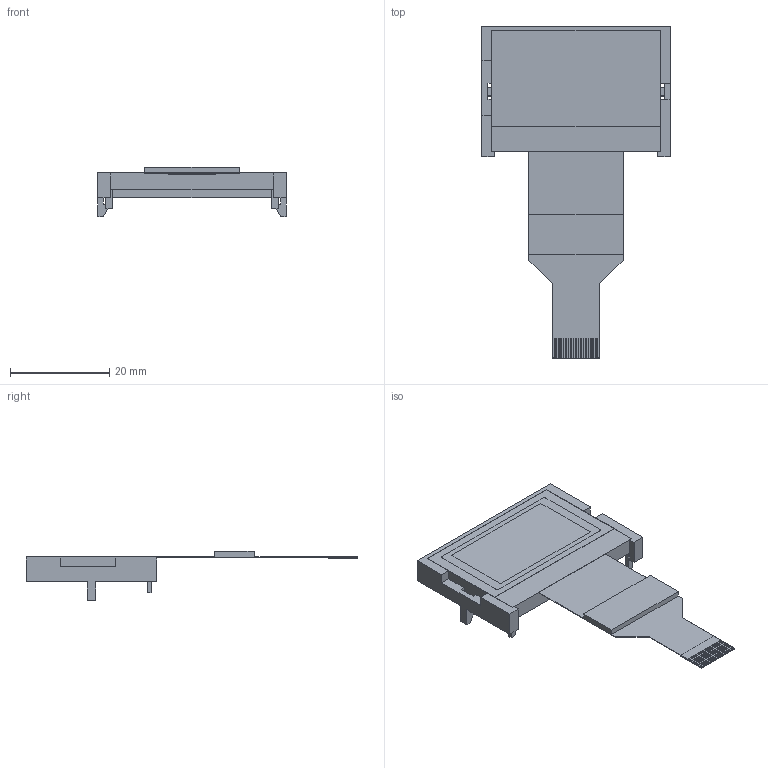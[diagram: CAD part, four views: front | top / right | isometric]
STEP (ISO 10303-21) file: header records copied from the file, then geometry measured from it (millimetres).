
FILE_DESCRIPTION (( 'STEP AP214' ), '1' );
FILE_NAME ('CFAG12864T3.STEP', '2019-11-25T21:50:08', ( '' ), ( '' ), 'SwSTEP 2.0', 'SolidWorks 2015', '' );
FILE_SCHEMA (( 'AUTOMOTIVE_DESIGN' ));
Length unit declared in the file: millimetre
Products named in the file (1): CFAG12864T3
Bounding box: 38 x 66.98 x 9.9 mm (x, y, z)
Volume: 3608.4 mm3; surface area: 6083.7 mm2
Topology: 25 solids, 25 shells, 194 faces, 438 edges, 296 vertices
Faces by surface type: plane 194
Entity records: 7409 total; most frequent: CARTESIAN_POINT 929, ORIENTED_EDGE 876, DIRECTION 832, EDGE_CURVE 438, VECTOR 434, LINE 434, VERTEX_POINT 296, AXIS2_PLACEMENT_3D 199
